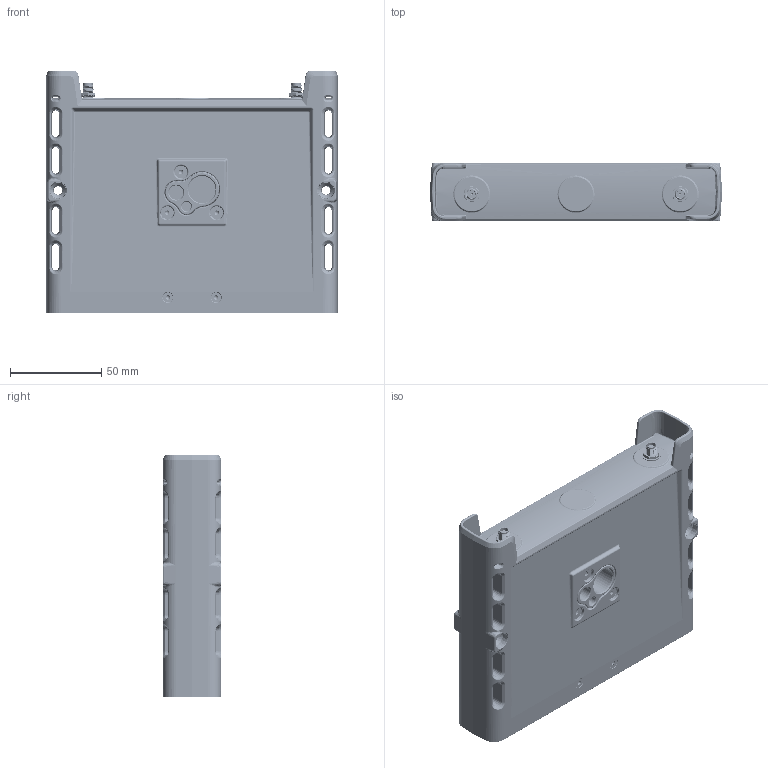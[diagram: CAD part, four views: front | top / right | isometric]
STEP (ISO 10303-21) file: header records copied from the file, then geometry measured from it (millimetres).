
FILE_DESCRIPTION(/* description */ (''),/* implementation_level */ '2;1');
FILE_NAME(/* name */ 'A20-Outpost-NL.stp',/* time_stamp */ '2025-02-27T18:06:38-06:00',('The Cool People at Sound Devices'),(''),/* preprocessor_version */ 'ST-DEVELOPER v20',/* originating_system */ 'Autodesk Inventor 2024','Proprietary to Sound Devices LLC');
FILE_SCHEMA (('AUTOMOTIVE_DESIGN { 1 0 10303 214 3 1 1 }'));
Products named in the file (27): Solid 1; Solid 2; Solid 3; Solid 4; Solid 5; Solid 6; Solid 7; Solid 8; Solid 9; Solid 10; Solid 11; Solid 12; Solid 13; Solid 14; Solid 15; Solid 16; Solid 17; Solid 18; Solid 19; Solid 20; Solid 21; Solid 22; Solid 23; Solid 24; Solid 25; Solid 26; Solid 27
Assembly tree (43 placements, depth 3):
  Solid 1
    Solid 2
      Solid 3
      Solid 4  x4
    Solid 5
      Solid 6
      Solid 7  x3
    Solid 8  x2
    Solid 9
    Solid 10
    Solid 11
    Solid 12
    Solid 13
    Solid 14
    Solid 15  x2
    Solid 16
    Solid 17
    Solid 18  x2
    Solid 19
    Solid 20
    Solid 21
    Solid 22
    Solid 23  x2
    Solid 24  x4
    Solid 25  x4
    Solid 26  x3
    Solid 27
Bounding box: 159.68 x 32.01 x 132.5 mm (x, y, z)
Volume: 191591.8 mm3; surface area: 147969.9 mm2
Topology: 96 solids, 133 shells, 11028 faces, 30505 edges, 20105 vertices
Faces by surface type: plane 7004, cylinder 2045, bspline 1364, cone 413, torus 155, sphere 47
Full cylindrical faces by diameter (mm): 0.081 x3, 0.104 x3, 0.3 x3, 0.4 x1, 0.5 x6, 0.6 x16, 0.65 x1, 0.7 x9, 0.8 x8, 0.85 x1, 0.95 x10, 1 x5, 1.05 x10, 1.2 x5, 1.27 x2, 1.5 x14, 1.55 x2, 1.6 x2, 1.694 x1, 1.8 x2, 1.915 x36, 2.184 x1, 2.3 x4, 2.35 x40, 2.36 x1, 2.4 x3, 2.449 x3, 2.459 x11, 2.5 x37, 2.6 x2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
Entity records: 393314 total; most frequent: CARTESIAN_POINT 138014, ORIENTED_EDGE 54674, DIRECTION 46253, EDGE_CURVE 27337, LINE 19843, VECTOR 19843, VERTEX_POINT 18047, AXIS2_PLACEMENT_3D 13205
